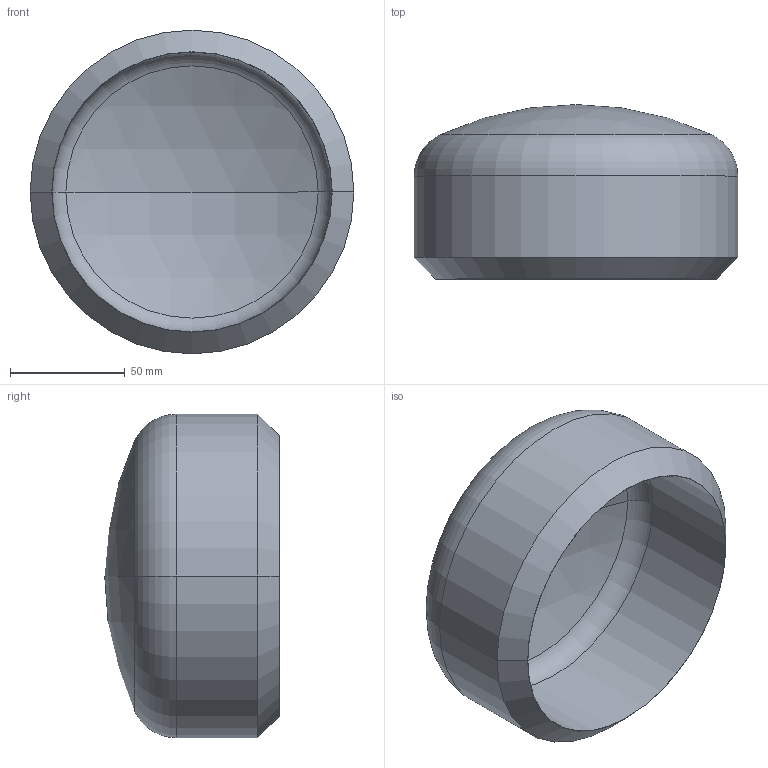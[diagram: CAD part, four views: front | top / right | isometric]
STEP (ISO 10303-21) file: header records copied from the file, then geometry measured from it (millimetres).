
FILE_DESCRIPTION (( 'STEP AP203' ), '1' );
FILE_NAME ('3D_R275_5x80S_173455222.STEP', '2024-08-23T12:20:30', ( '' ), ( '' ), 'SwSTEP 2.0', 'SolidWorks 2024', '' );
FILE_SCHEMA (( 'CONFIG_CONTROL_DESIGN' ));
Length unit declared in the file: millimetre
Products named in the file (1): 3D_R275_5x80S_173455222
Bounding box: 141.3 x 76.2 x 141.3 mm (x, y, z)
Volume: 326446.3 mm3; surface area: 74034.5 mm2
Topology: 1 solids, 1 shells, 15 faces, 28 edges, 16 vertices
Faces by surface type: sphere 4, torus 4, cylinder 4, cone 2, plane 1
Entity records: 457 total; most frequent: DIRECTION 82, CARTESIAN_POINT 60, ORIENTED_EDGE 56, AXIS2_PLACEMENT_3D 38, EDGE_CURVE 28, CIRCLE 22, VERTEX_POINT 16, EDGE_LOOP 16
